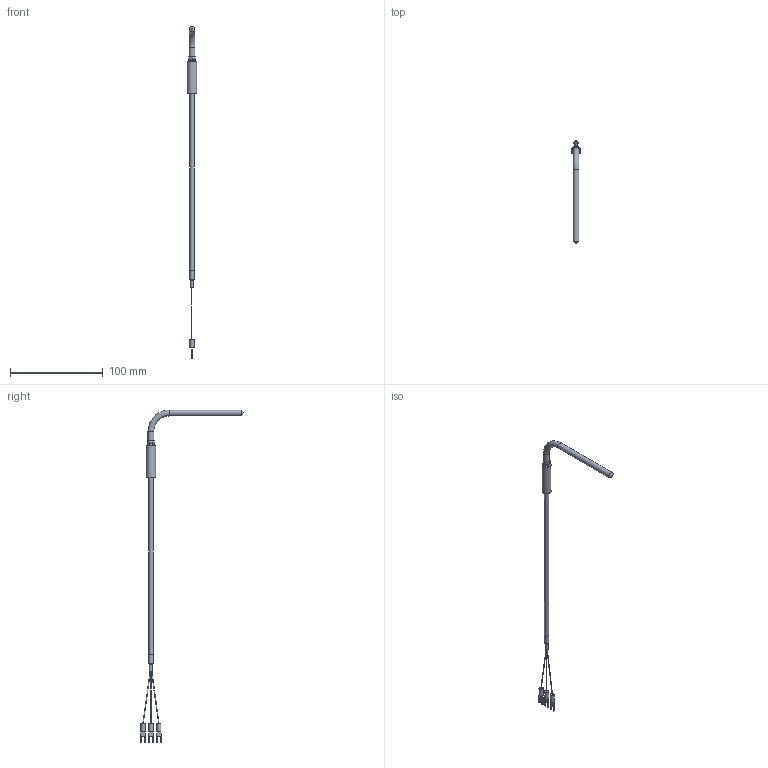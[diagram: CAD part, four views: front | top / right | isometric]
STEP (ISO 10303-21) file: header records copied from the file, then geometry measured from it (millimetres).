
FILE_DESCRIPTION (( 'STEP AP203' ), '1' );
FILE_NAME ('YIR111S-3(0).STEP', '2024-07-25T08:07:35', ( '' ), ( '' ), 'SwSTEP 2.0', 'SolidWorks 2021', '' );
FILE_SCHEMA (( 'CONFIG_CONTROL_DESIGN' ));
Length unit declared in the file: millimetre
Products named in the file (1): YIR111S-3(0)
Bounding box: 10 x 111.48 x 357.92 mm (x, y, z)
Volume: 11096.4 mm3; surface area: 7946.5 mm2
Topology: 1 solids, 1 shells, 91 faces, 222 edges, 145 vertices
Faces by surface type: plane 47, cylinder 31, bspline 8, cone 3, torus 2
Full cylindrical faces by diameter (mm): 0.5 x1, 3.16 x1, 4.5 x3, 4.8 x1, 5 x1, 6.4 x2, 10 x1
Entity records: 2817 total; most frequent: CARTESIAN_POINT 680, DIRECTION 424, ORIENTED_EDGE 400, EDGE_CURVE 200, AXIS2_PLACEMENT_3D 152, VERTEX_POINT 140, EDGE_LOOP 120, LINE 120
